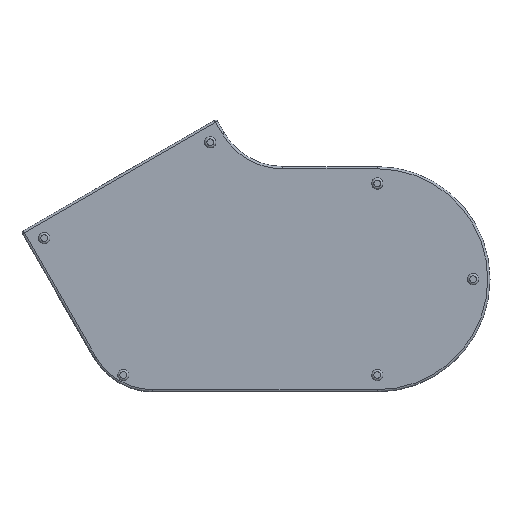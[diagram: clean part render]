
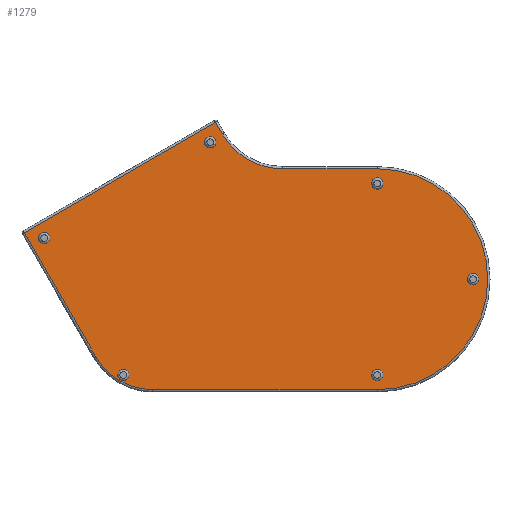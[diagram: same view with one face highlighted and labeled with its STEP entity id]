
A CAD part, front view. The second image highlights one B-rep face of the part: STEP entity #1279.
In plain terms, the highlighted planar face has unit normal (0, -1, 0).
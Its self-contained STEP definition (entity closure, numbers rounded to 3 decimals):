
#62=PLANE('',#1453);
#109=LINE('',#2144,#175);
#111=LINE('',#2150,#177);
#113=LINE('',#2162,#179);
#115=LINE('',#2174,#181);
#117=LINE('',#2183,#183);
#175=VECTOR('',#1651,10.);
#177=VECTOR('',#1657,10.);
#179=VECTOR('',#1671,10.);
#181=VECTOR('',#1685,10.);
#183=VECTOR('',#1697,10.);
#300=FACE_OUTER_BOUND('',#394,.T.);
#394=EDGE_LOOP('',(#980,#981,#982,#983,#984,#985,#986,#987));
#474=CIRCLE('',#1412,310.);
#478=CIRCLE('',#1418,490.);
#482=CIRCLE('',#1424,290.);
#579=VERTEX_POINT('',#2124);
#582=VERTEX_POINT('',#2134);
#584=VERTEX_POINT('',#2146);
#586=VERTEX_POINT('',#2152);
#588=VERTEX_POINT('',#2158);
#590=VERTEX_POINT('',#2164);
#592=VERTEX_POINT('',#2170);
#594=VERTEX_POINT('',#2176);
#698=EDGE_CURVE('',#579,#582,#109,.T.);
#701=EDGE_CURVE('',#582,#584,#111,.T.);
#704=EDGE_CURVE('',#584,#586,#474,.T.);
#707=EDGE_CURVE('',#586,#588,#113,.T.);
#710=EDGE_CURVE('',#588,#590,#478,.T.);
#713=EDGE_CURVE('',#590,#592,#115,.T.);
#716=EDGE_CURVE('',#592,#594,#482,.T.);
#718=EDGE_CURVE('',#594,#579,#117,.T.);
#980=ORIENTED_EDGE('',*,*,#698,.F.);
#981=ORIENTED_EDGE('',*,*,#718,.F.);
#982=ORIENTED_EDGE('',*,*,#716,.F.);
#983=ORIENTED_EDGE('',*,*,#713,.F.);
#984=ORIENTED_EDGE('',*,*,#710,.F.);
#985=ORIENTED_EDGE('',*,*,#707,.F.);
#986=ORIENTED_EDGE('',*,*,#704,.F.);
#987=ORIENTED_EDGE('',*,*,#701,.F.);
#1279=ADVANCED_FACE('',(#300),#62,.F.);
#1412=AXIS2_PLACEMENT_3D('',#2156,#1664,#1665);
#1418=AXIS2_PLACEMENT_3D('',#2168,#1678,#1679);
#1424=AXIS2_PLACEMENT_3D('',#2180,#1692,#1693);
#1453=AXIS2_PLACEMENT_3D('',#2239,#1768,#1769);
#1651=DIRECTION('',(0.866,0.,0.5));
#1657=DIRECTION('',(0.5,0.,-0.866));
#1664=DIRECTION('center_axis',(0.,-1.,0.));
#1665=DIRECTION('ref_axis',(-0.5,0.,-0.866));
#1671=DIRECTION('',(1.,0.,0.));
#1678=DIRECTION('center_axis',(0.,1.,0.));
#1679=DIRECTION('ref_axis',(1.,0.,0.));
#1685=DIRECTION('',(-1.,0.,0.));
#1692=DIRECTION('center_axis',(0.,1.,0.));
#1693=DIRECTION('ref_axis',(-0.5,0.,-0.866));
#1697=DIRECTION('',(-0.5,0.,0.866));
#1768=DIRECTION('center_axis',(0.,1.,0.));
#1769=DIRECTION('ref_axis',(1.,0.,0.));
#2124=CARTESIAN_POINT('',(-684.934,30.,-293.66));
#2134=CARTESIAN_POINT('',(163.771,30.,196.34));
#2144=CARTESIAN_POINT('',(-326.327,30.,-86.619));
#2146=CARTESIAN_POINT('',(193.412,30.,145.));
#2150=CARTESIAN_POINT('',(311.504,30.,-59.542));
#2152=CARTESIAN_POINT('',(461.88,30.,-10.));
#2156=CARTESIAN_POINT('Origin',(461.88,30.,300.));
#2158=CARTESIAN_POINT('',(881.406,30.,-10.));
#2162=CARTESIAN_POINT('',(315.041,30.,-10.));
#2164=CARTESIAN_POINT('',(881.406,30.,-990.));
#2168=CARTESIAN_POINT('Origin',(881.406,30.,-500.));
#2170=CARTESIAN_POINT('',(-115.47,30.,-990.));
#2174=CARTESIAN_POINT('',(611.406,30.,-990.));
#2176=CARTESIAN_POINT('',(-366.617,30.,-845.));
#2180=CARTESIAN_POINT('Origin',(-115.47,30.,-700.));
#2183=CARTESIAN_POINT('',(-332.241,30.,-904.542));
#2239=CARTESIAN_POINT('Origin',(341.406,30.,-395.));
